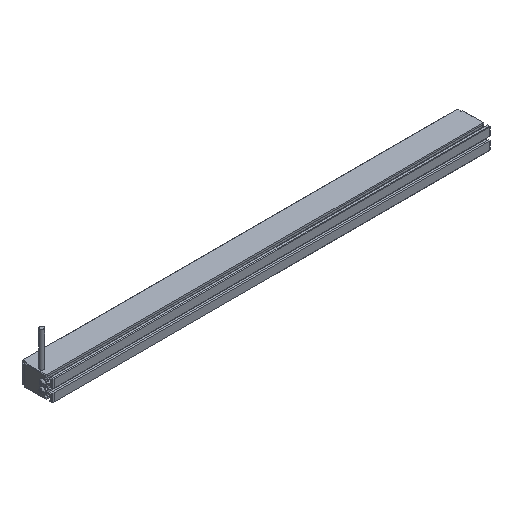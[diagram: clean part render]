
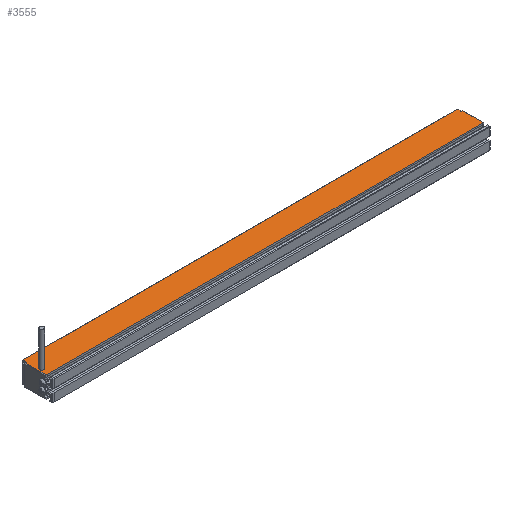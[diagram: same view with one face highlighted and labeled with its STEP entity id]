
A CAD part, isometric view. The second image highlights one B-rep face of the part: STEP entity #3555.
In plain terms, the highlighted planar face has unit normal (0, 0, 1) as drawn and (1, 0, 0) by its records, which use the part's own axes.
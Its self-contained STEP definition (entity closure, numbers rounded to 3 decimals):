
#336=DIRECTION('',(0.,1.,0.));
#337=VECTOR('',#336,17.499);
#338=CARTESIAN_POINT('',(9.,-4.3,-185.5));
#339=LINE('',#338,#337);
#492=CARTESIAN_POINT('',(9.,2.3,182.75));
#493=DIRECTION('',(1.,0.,0.));
#494=DIRECTION('',(0.,0.,-1.));
#495=AXIS2_PLACEMENT_3D('',#492,#493,#494);
#497=CARTESIAN_POINT('',(9.,2.3,182.75));
#498=DIRECTION('',(1.,0.,0.));
#499=DIRECTION('',(0.,0.,1.));
#500=AXIS2_PLACEMENT_3D('',#497,#498,#499);
#502=DIRECTION('',(0.,-1.,0.));
#503=VECTOR('',#502,3.301);
#504=CARTESIAN_POINT('',(9.,16.5,-184.5));
#505=LINE('',#504,#503);
#506=DIRECTION('',(0.,0.,-1.));
#507=VECTOR('',#506,1.);
#508=CARTESIAN_POINT('',(9.,13.199,-184.5));
#509=LINE('',#508,#507);
#510=DIRECTION('',(0.,0.,1.));
#511=VECTOR('',#510,370.);
#512=CARTESIAN_POINT('',(9.,-4.3,-185.5));
#513=LINE('',#512,#511);
#514=DIRECTION('',(0.,0.,-1.));
#515=VECTOR('',#514,369.);
#516=CARTESIAN_POINT('',(9.,16.5,184.5));
#517=LINE('',#516,#515);
#536=DIRECTION('',(0.,-1.,0.));
#537=VECTOR('',#536,0.1);
#538=CARTESIAN_POINT('',(9.,-4.2,184.5));
#539=LINE('',#538,#537);
#560=DIRECTION('',(0.,-1.,0.));
#561=VECTOR('',#560,3.203);
#562=CARTESIAN_POINT('',(9.,16.5,184.5));
#563=LINE('',#562,#561);
#584=DIRECTION('',(0.,0.,-1.));
#585=VECTOR('',#584,1.);
#586=CARTESIAN_POINT('',(9.,-4.2,185.5));
#587=LINE('',#586,#585);
#1692=DIRECTION('',(0.,0.,1.));
#1693=VECTOR('',#1692,1.);
#1694=CARTESIAN_POINT('',(9.,13.297,184.5));
#1695=LINE('',#1694,#1693);
#1700=DIRECTION('',(0.,-1.,0.));
#1701=VECTOR('',#1700,17.497);
#1702=CARTESIAN_POINT('',(9.,13.297,185.5));
#1703=LINE('',#1702,#1701);
#2266=CARTESIAN_POINT('',(9.,13.297,185.5));
#2268=VERTEX_POINT('',#2266);
#2271=CARTESIAN_POINT('',(9.,-4.2,185.5));
#2272=VERTEX_POINT('',#2271);
#2459=CARTESIAN_POINT('',(9.,16.5,-184.5));
#2461=VERTEX_POINT('',#2459);
#2465=CARTESIAN_POINT('',(9.,-4.3,184.5));
#2467=VERTEX_POINT('',#2465);
#2477=CARTESIAN_POINT('',(9.,16.5,184.5));
#2478=VERTEX_POINT('',#2477);
#2479=CARTESIAN_POINT('',(9.,2.3,184.5));
#2481=VERTEX_POINT('',#2479);
#2485=CARTESIAN_POINT('',(9.,2.3,181.));
#2486=VERTEX_POINT('',#2485);
#2493=CARTESIAN_POINT('',(9.,13.297,184.5));
#2494=VERTEX_POINT('',#2493);
#2496=CARTESIAN_POINT('',(9.,-4.2,184.5));
#2498=VERTEX_POINT('',#2496);
#2645=CARTESIAN_POINT('',(9.,13.199,-185.5));
#2647=VERTEX_POINT('',#2645);
#2649=CARTESIAN_POINT('',(9.,-4.3,-185.5));
#2650=VERTEX_POINT('',#2649);
#2689=CARTESIAN_POINT('',(9.,13.199,-184.5));
#2691=VERTEX_POINT('',#2689);
#3526=CARTESIAN_POINT('',(9.,-4.2,184.5));
#3527=DIRECTION('',(1.,0.,0.));
#3528=DIRECTION('',(0.,1.,0.));
#3529=AXIS2_PLACEMENT_3D('',#3526,#3527,#3528);
#3530=PLANE('',#3529);
#3531=ORIENTED_EDGE('',*,*,#2754,.T.);
#3532=ORIENTED_EDGE('',*,*,#3099,.T.);
#3533=ORIENTED_EDGE('',*,*,#3083,.F.);
#3534=ORIENTED_EDGE('',*,*,#3516,.T.);
#3536=ORIENTED_EDGE('',*,*,#3535,.F.);
#3538=ORIENTED_EDGE('',*,*,#3537,.F.);
#3540=ORIENTED_EDGE('',*,*,#3539,.F.);
#3542=ORIENTED_EDGE('',*,*,#3541,.F.);
#3544=ORIENTED_EDGE('',*,*,#3543,.F.);
#3546=ORIENTED_EDGE('',*,*,#3545,.T.);
#3547=EDGE_LOOP('',(#3531,#3532,#3533,#3534,#3536,#3538,#3540,#3542,#3544,
#3546));
#3548=FACE_OUTER_BOUND('',#3547,.F.);
#3550=ORIENTED_EDGE('',*,*,#3549,.T.);
#3552=ORIENTED_EDGE('',*,*,#3551,.T.);
#3553=EDGE_LOOP('',(#3550,#3552));
#3554=FACE_BOUND('',#3553,.F.);
#496=CIRCLE('',#495,1.75);
#501=CIRCLE('',#500,1.75);
#2754=EDGE_CURVE('',#2461,#2691,#505,.T.);
#3083=EDGE_CURVE('',#2650,#2647,#339,.T.);
#3099=EDGE_CURVE('',#2691,#2647,#509,.T.);
#3516=EDGE_CURVE('',#2650,#2467,#513,.T.);
#3535=EDGE_CURVE('',#2498,#2467,#539,.T.);
#3537=EDGE_CURVE('',#2272,#2498,#587,.T.);
#3539=EDGE_CURVE('',#2268,#2272,#1703,.T.);
#3541=EDGE_CURVE('',#2494,#2268,#1695,.T.);
#3543=EDGE_CURVE('',#2478,#2494,#563,.T.);
#3545=EDGE_CURVE('',#2478,#2461,#517,.T.);
#3549=EDGE_CURVE('',#2486,#2481,#496,.T.);
#3551=EDGE_CURVE('',#2481,#2486,#501,.T.);
#3555=ADVANCED_FACE('',(#3548,#3554),#3530,.T.);
